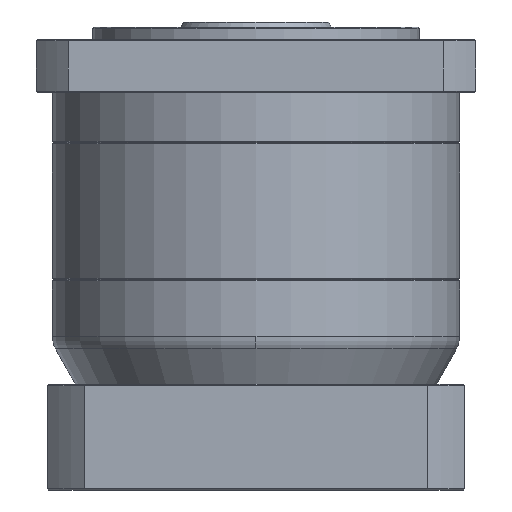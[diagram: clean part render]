
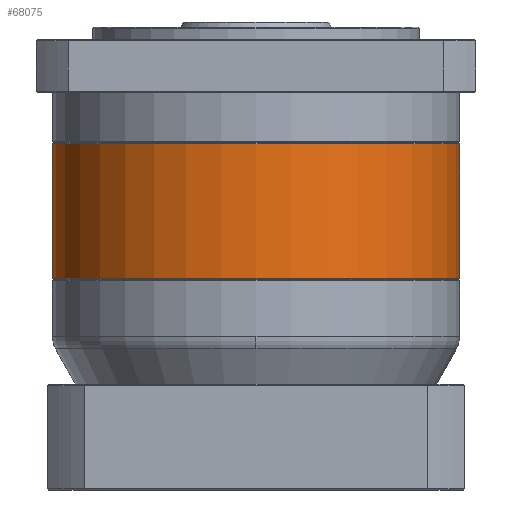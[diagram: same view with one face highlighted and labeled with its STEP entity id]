
A CAD part, front view. The second image highlights one B-rep face of the part: STEP entity #68075.
In plain terms, the highlighted cylindrical face has radius 81 mm (diameter 162 mm), a partial arc.
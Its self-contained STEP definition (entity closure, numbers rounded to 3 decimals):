
#3226 = CARTESIAN_POINT ( 'NONE',  ( -263.218, 46.564, 47.303 ) ) ;
#4478 = ORIENTED_EDGE ( 'NONE', *, *, #42348, .F. ) ;
#5113 = VERTEX_POINT ( 'NONE', #32790 ) ;
#6005 = DIRECTION ( 'NONE',  ( 0., 0., -1. ) ) ;
#8040 = LINE ( 'NONE', #88710, #72300 ) ;
#10683 = LINE ( 'NONE', #3226, #38905 ) ;
#11766 = DIRECTION ( 'NONE',  ( 0., 0., -1. ) ) ;
#13562 = DIRECTION ( 'NONE',  ( 1., 0., 0. ) ) ;
#14868 = ORIENTED_EDGE ( 'NONE', *, *, #33466, .F. ) ;
#17021 = DIRECTION ( 'NONE',  ( 0., 0., 1. ) ) ;
#19103 = ORIENTED_EDGE ( 'NONE', *, *, #20345, .T. ) ;
#19199 = CARTESIAN_POINT ( 'NONE',  ( -263.218, 46.564, 47.803 ) ) ;
#20345 = EDGE_CURVE ( 'NONE', #47112, #66247, #8040, .T. ) ;
#21776 = CIRCLE ( 'NONE', #62171, 81. ) ;
#29442 = AXIS2_PLACEMENT_3D ( 'NONE', #56566, #70782, #48714 ) ;
#29634 = ORIENTED_EDGE ( 'NONE', *, *, #56193, .T. ) ;
#32150 = DIRECTION ( 'NONE',  ( 0., 0., 1. ) ) ;
#32790 = CARTESIAN_POINT ( 'NONE',  ( -263.218, 46.564, 101.303 ) ) ;
#33466 = EDGE_CURVE ( 'NONE', #47112, #54388, #89532, .T. ) ;
#33605 = EDGE_CURVE ( 'NONE', #34536, #5113, #10683, .T. ) ;
#34536 = VERTEX_POINT ( 'NONE', #19199 ) ;
#35373 = AXIS2_PLACEMENT_3D ( 'NONE', #79351, #6005, #13562 ) ;
#36610 = DIRECTION ( 'NONE',  ( 0., 0., -1. ) ) ;
#37912 = FACE_OUTER_BOUND ( 'NONE', #52160, .T. ) ;
#38905 = VECTOR ( 'NONE', #32150, 1000. ) ;
#41371 = CARTESIAN_POINT ( 'NONE',  ( -182.218, 46.564, 47.803 ) ) ;
#42348 = EDGE_CURVE ( 'NONE', #54388, #34536, #21776, .T. ) ;
#42965 = ORIENTED_EDGE ( 'NONE', *, *, #33605, .F. ) ;
#45522 = CARTESIAN_POINT ( 'NONE',  ( -182.218, -34.436, 47.803 ) ) ;
#47112 = VERTEX_POINT ( 'NONE', #68523 ) ;
#48714 = DIRECTION ( 'NONE',  ( 1., 0., 0. ) ) ;
#52160 = EDGE_LOOP ( 'NONE', ( #42965, #4478, #14868, #19103, #29634 ) ) ;
#53719 = CYLINDRICAL_SURFACE ( 'NONE', #29442, 81. ) ;
#54388 = VERTEX_POINT ( 'NONE', #45522 ) ;
#56193 = EDGE_CURVE ( 'NONE', #66247, #5113, #79582, .T. ) ;
#56566 = CARTESIAN_POINT ( 'NONE',  ( -182.218, 46.564, 47.303 ) ) ;
#62129 = DIRECTION ( 'NONE',  ( 0., 1., 0. ) ) ;
#62171 = AXIS2_PLACEMENT_3D ( 'NONE', #41371, #11766, #62129 ) ;
#66247 = VERTEX_POINT ( 'NONE', #84382 ) ;
#66910 = CARTESIAN_POINT ( 'NONE',  ( -182.218, 46.564, 47.803 ) ) ;
#68075 = ADVANCED_FACE ( 'NONE', ( #37912 ), #53719, .T. ) ;
#68523 = CARTESIAN_POINT ( 'NONE',  ( -101.218, 46.564, 47.803 ) ) ;
#70782 = DIRECTION ( 'NONE',  ( 0., 0., 1. ) ) ;
#72300 = VECTOR ( 'NONE', #17021, 1000. ) ;
#78722 = AXIS2_PLACEMENT_3D ( 'NONE', #66910, #36610, #86897 ) ;
#79351 = CARTESIAN_POINT ( 'NONE',  ( -182.218, 46.564, 101.303 ) ) ;
#79582 = CIRCLE ( 'NONE', #35373, 81. ) ;
#84382 = CARTESIAN_POINT ( 'NONE',  ( -101.218, 46.564, 101.303 ) ) ;
#86897 = DIRECTION ( 'NONE',  ( 0., 1., 0. ) ) ;
#88710 = CARTESIAN_POINT ( 'NONE',  ( -101.218, 46.564, 47.303 ) ) ;
#89532 = CIRCLE ( 'NONE', #78722, 81. ) ;
